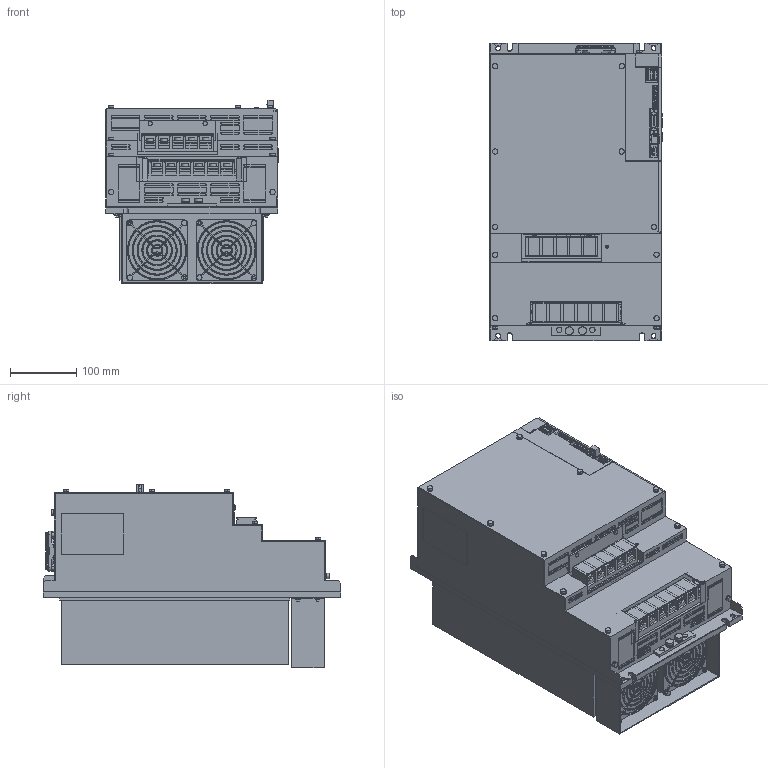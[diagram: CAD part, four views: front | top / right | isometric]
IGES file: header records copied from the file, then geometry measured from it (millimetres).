
Start section: SolidWorks IGES file using analytic representation for surfaces
Global section: file name: C:\YASKAWA\sgdv_780a1_a001000.IGS; native system: SolidWorks 2006 by SolidWorks Corporation; preprocessor: SolidWorks 2006 by SolidWorks Corporation; author: yamanouchi; date: 090513.222603; units: millimetre
Bounding box: 260.6 x 450 x 278 mm (x, y, z)
Surface area: 1666291.7 mm2 (no closed solid volume)
Topology: 0 solids, 0 shells, 2776 faces, 31699 edges, 31699 vertices
Faces by surface type: bspline 2206, revolution 570
